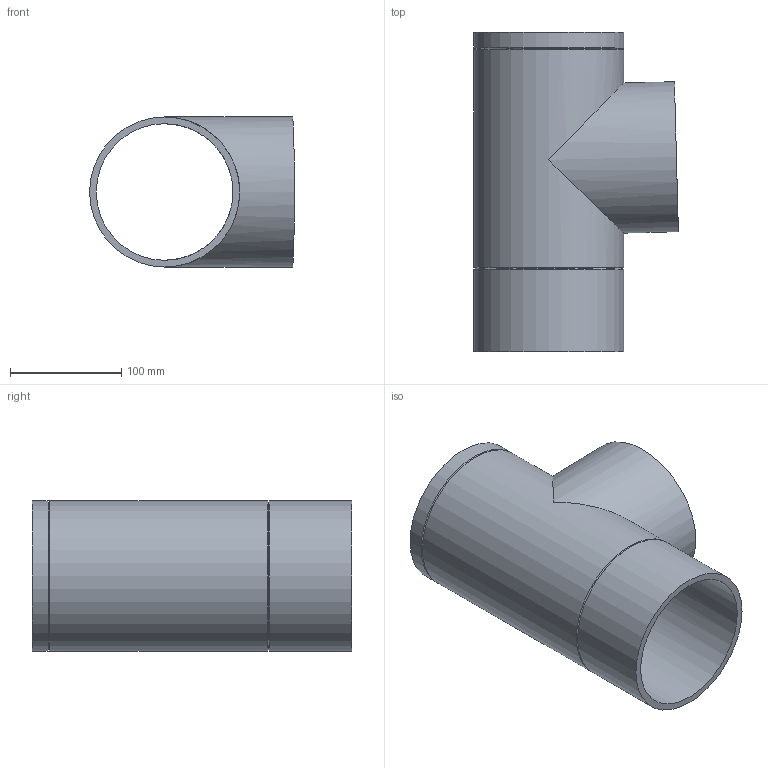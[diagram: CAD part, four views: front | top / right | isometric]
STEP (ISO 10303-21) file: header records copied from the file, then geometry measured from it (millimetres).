
FILE_DESCRIPTION(/* description */ (''),/* implementation_level */ '2;1');
FILE_NAME(/* name */ 'Z:\Geberit\Export\Export18\Abzweig Gerade_Ipart\stp\312128.stp',/* time_stamp */ '2014-08-26T21:50:04+02:00',/* author */ ('ML'),/* organization */ (''),/* preprocessor_version */ 'ST-DEVELOPER v15.2',/* originating_system */ 'Autodesk Inventor 2014',/* authorisation */ '');
FILE_SCHEMA (('AUTOMOTIVE_DESIGN { 1 0 10303 214 3 1 1 }'));
Length unit declared in the file: millimetre
Products named in the file (1): 312128
Bounding box: 184.23 x 287.5 x 135 mm (x, y, z)
Volume: 777924.7 mm3; surface area: 268098.4 mm2
Topology: 1 solids, 1 shells, 13 faces, 32 edges, 21 vertices
Faces by surface type: cylinder 6, cone 4, plane 3
Full cylindrical faces by diameter (mm): 123 x2, 135 x4
Entity records: 323 total; most frequent: DIRECTION 60, CARTESIAN_POINT 46, ORIENTED_EDGE 32, AXIS2_PLACEMENT_3D 30, EDGE_LOOP 28, FACE_BOUND 19, VERTEX_POINT 16, EDGE_CURVE 16
